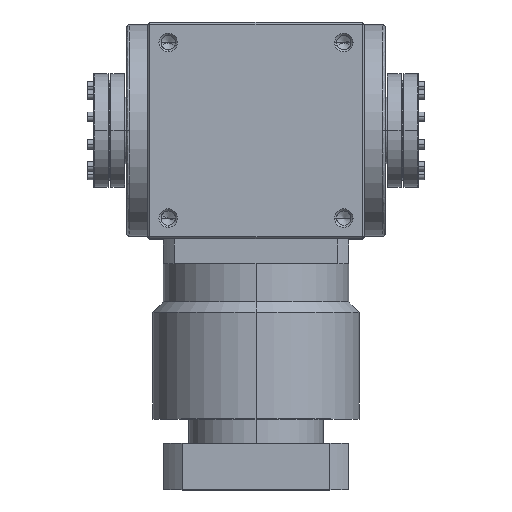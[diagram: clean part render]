
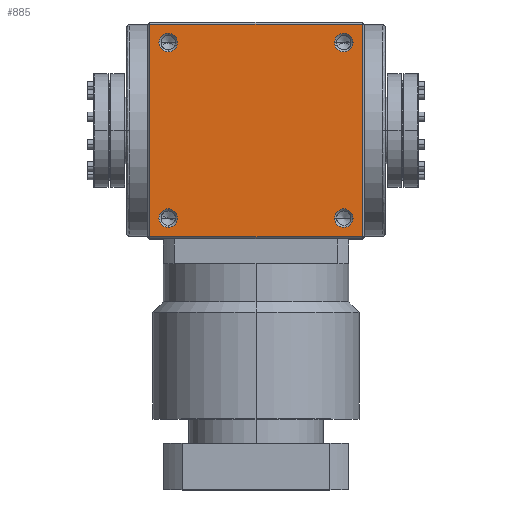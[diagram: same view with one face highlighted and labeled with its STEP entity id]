
A CAD part, top view. The second image highlights one B-rep face of the part: STEP entity #885.
In plain terms, the highlighted planar face has unit normal (0, 0, 1).
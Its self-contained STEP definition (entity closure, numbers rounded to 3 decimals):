
#181 = PLANE ( 'NONE',  #23608 ) ;
#369 = AXIS2_PLACEMENT_3D ( 'NONE', #9421, #26091, #20117 ) ;
#483 = CARTESIAN_POINT ( 'NONE',  ( 103., -103., 105. ) ) ;
#533 = DIRECTION ( 'NONE',  ( 0., 0., -1. ) ) ;
#541 = DIRECTION ( 'NONE',  ( -1., 0., 0. ) ) ;
#734 = FACE_BOUND ( 'NONE', #3857, .T. ) ;
#885 = ADVANCED_FACE ( 'NONE', ( #1002, #4411, #734, #22406, #24610 ), #181, .F. ) ;
#1002 = FACE_OUTER_BOUND ( 'NONE', #21010, .T. ) ;
#1026 = ORIENTED_EDGE ( 'NONE', *, *, #7818, .T. ) ;
#1740 = ORIENTED_EDGE ( 'NONE', *, *, #7661, .T. ) ;
#1970 = CIRCLE ( 'NONE', #7244, 9. ) ;
#2245 = CIRCLE ( 'NONE', #31123, 9. ) ;
#2421 = VERTEX_POINT ( 'NONE', #31727 ) ;
#2753 = DIRECTION ( 'NONE',  ( 0., -1., 0. ) ) ;
#2790 = DIRECTION ( 'NONE',  ( 0., 0., 1. ) ) ;
#2833 = CARTESIAN_POINT ( 'NONE',  ( -85., 85., 105. ) ) ;
#3530 = EDGE_LOOP ( 'NONE', ( #21941, #28049 ) ) ;
#3690 = CARTESIAN_POINT ( 'NONE',  ( 94., 85., 105. ) ) ;
#3857 = EDGE_LOOP ( 'NONE', ( #31714, #37130 ) ) ;
#4411 = FACE_BOUND ( 'NONE', #23992, .T. ) ;
#5349 = EDGE_CURVE ( 'NONE', #30025, #2421, #6178, .T. ) ;
#5476 = EDGE_CURVE ( 'NONE', #14740, #33255, #8252, .T. ) ;
#5529 = EDGE_CURVE ( 'NONE', #36520, #34352, #35201, .T. ) ;
#5837 = CARTESIAN_POINT ( 'NONE',  ( -85., 94., 105. ) ) ;
#6178 = CIRCLE ( 'NONE', #12392, 9. ) ;
#6571 = CARTESIAN_POINT ( 'NONE',  ( -85., -76., 105. ) ) ;
#7244 = AXIS2_PLACEMENT_3D ( 'NONE', #20679, #20672, #20632 ) ;
#7661 = EDGE_CURVE ( 'NONE', #31739, #19085, #17689, .T. ) ;
#7738 = VECTOR ( 'NONE', #23970, 1000. ) ;
#7818 = EDGE_CURVE ( 'NONE', #19085, #12961, #33240, .T. ) ;
#8252 = CIRCLE ( 'NONE', #11586, 9. ) ;
#9421 = CARTESIAN_POINT ( 'NONE',  ( 85., 85., 105. ) ) ;
#10630 = LINE ( 'NONE', #27927, #18676 ) ;
#11386 = DIRECTION ( 'NONE',  ( 0., 0., 1. ) ) ;
#11389 = AXIS2_PLACEMENT_3D ( 'NONE', #28238, #11386, #28232 ) ;
#11586 = AXIS2_PLACEMENT_3D ( 'NONE', #28860, #28817, #28764 ) ;
#11733 = CIRCLE ( 'NONE', #24587, 9. ) ;
#12392 = AXIS2_PLACEMENT_3D ( 'NONE', #32564, #32534, #32436 ) ;
#12676 = CARTESIAN_POINT ( 'NONE',  ( -85., -94., 105. ) ) ;
#12961 = VERTEX_POINT ( 'NONE', #31798 ) ;
#14740 = VERTEX_POINT ( 'NONE', #12676 ) ;
#15258 = VERTEX_POINT ( 'NONE', #18767 ) ;
#15376 = EDGE_CURVE ( 'NONE', #33255, #14740, #2245, .T. ) ;
#16049 = EDGE_CURVE ( 'NONE', #34352, #36520, #11733, .T. ) ;
#17689 = LINE ( 'NONE', #35454, #31412 ) ;
#18676 = VECTOR ( 'NONE', #28055, 1000. ) ;
#18739 = EDGE_CURVE ( 'NONE', #2421, #30025, #28750, .T. ) ;
#18767 = CARTESIAN_POINT ( 'NONE',  ( 103., 103., 105. ) ) ;
#19085 = VERTEX_POINT ( 'NONE', #21461 ) ;
#20117 = DIRECTION ( 'NONE',  ( 1., 0., 0. ) ) ;
#20632 = DIRECTION ( 'NONE',  ( 0., -1., 0. ) ) ;
#20672 = DIRECTION ( 'NONE',  ( 0., 0., 1. ) ) ;
#20679 = CARTESIAN_POINT ( 'NONE',  ( -85., 85., 105. ) ) ;
#20944 = ORIENTED_EDGE ( 'NONE', *, *, #18739, .F. ) ;
#21010 = EDGE_LOOP ( 'NONE', ( #38133, #26890, #1740, #1026 ) ) ;
#21451 = DIRECTION ( 'NONE',  ( 0., 0., 1. ) ) ;
#21459 = CARTESIAN_POINT ( 'NONE',  ( -85., -85., 105. ) ) ;
#21461 = CARTESIAN_POINT ( 'NONE',  ( -103., -103., 105. ) ) ;
#21537 = EDGE_CURVE ( 'NONE', #12961, #15258, #10630, .T. ) ;
#21576 = DIRECTION ( 'NONE',  ( 0., -1., 0. ) ) ;
#21763 = EDGE_CURVE ( 'NONE', #15258, #31739, #31936, .T. ) ;
#21835 = EDGE_CURVE ( 'NONE', #34871, #25750, #1970, .T. ) ;
#21941 = ORIENTED_EDGE ( 'NONE', *, *, #22508, .F. ) ;
#22406 = FACE_BOUND ( 'NONE', #38511, .T. ) ;
#22508 = EDGE_CURVE ( 'NONE', #25750, #34871, #23809, .T. ) ;
#22912 = VECTOR ( 'NONE', #31588, 1000. ) ;
#22977 = CARTESIAN_POINT ( 'NONE',  ( 103., 103., 105. ) ) ;
#23608 = AXIS2_PLACEMENT_3D ( 'NONE', #483, #533, #541 ) ;
#23809 = CIRCLE ( 'NONE', #27164, 9. ) ;
#23970 = DIRECTION ( 'NONE',  ( -1., 0., 0. ) ) ;
#23992 = EDGE_LOOP ( 'NONE', ( #36697, #29755 ) ) ;
#24587 = AXIS2_PLACEMENT_3D ( 'NONE', #31408, #31279, #31270 ) ;
#24610 = FACE_BOUND ( 'NONE', #3530, .T. ) ;
#25750 = VERTEX_POINT ( 'NONE', #34151 ) ;
#26091 = DIRECTION ( 'NONE',  ( 0., 0., 1. ) ) ;
#26890 = ORIENTED_EDGE ( 'NONE', *, *, #21763, .T. ) ;
#27164 = AXIS2_PLACEMENT_3D ( 'NONE', #2833, #2790, #2753 ) ;
#27524 = CARTESIAN_POINT ( 'NONE',  ( -103., 103., 105. ) ) ;
#27927 = CARTESIAN_POINT ( 'NONE',  ( 103., -103., 105. ) ) ;
#28049 = ORIENTED_EDGE ( 'NONE', *, *, #21835, .F. ) ;
#28055 = DIRECTION ( 'NONE',  ( 0., 1., 0. ) ) ;
#28232 = DIRECTION ( 'NONE',  ( 1., 0., 0. ) ) ;
#28238 = CARTESIAN_POINT ( 'NONE',  ( 85., -85., 105. ) ) ;
#28750 = CIRCLE ( 'NONE', #369, 9. ) ;
#28764 = DIRECTION ( 'NONE',  ( 0., -1., 0. ) ) ;
#28817 = DIRECTION ( 'NONE',  ( 0., 0., 1. ) ) ;
#28860 = CARTESIAN_POINT ( 'NONE',  ( -85., -85., 105. ) ) ;
#29194 = CARTESIAN_POINT ( 'NONE',  ( 76., -85., 105. ) ) ;
#29755 = ORIENTED_EDGE ( 'NONE', *, *, #16049, .F. ) ;
#30025 = VERTEX_POINT ( 'NONE', #3690 ) ;
#31123 = AXIS2_PLACEMENT_3D ( 'NONE', #21459, #21451, #21576 ) ;
#31270 = DIRECTION ( 'NONE',  ( 1., 0., 0. ) ) ;
#31279 = DIRECTION ( 'NONE',  ( 0., 0., 1. ) ) ;
#31408 = CARTESIAN_POINT ( 'NONE',  ( 85., -85., 105. ) ) ;
#31412 = VECTOR ( 'NONE', #35945, 1000. ) ;
#31588 = DIRECTION ( 'NONE',  ( 1., 0., 0. ) ) ;
#31683 = CARTESIAN_POINT ( 'NONE',  ( -103., -103., 105. ) ) ;
#31714 = ORIENTED_EDGE ( 'NONE', *, *, #5476, .F. ) ;
#31727 = CARTESIAN_POINT ( 'NONE',  ( 76., 85., 105. ) ) ;
#31739 = VERTEX_POINT ( 'NONE', #27524 ) ;
#31798 = CARTESIAN_POINT ( 'NONE',  ( 103., -103., 105. ) ) ;
#31936 = LINE ( 'NONE', #22977, #7738 ) ;
#32436 = DIRECTION ( 'NONE',  ( 1., 0., 0. ) ) ;
#32534 = DIRECTION ( 'NONE',  ( 0., 0., 1. ) ) ;
#32564 = CARTESIAN_POINT ( 'NONE',  ( 85., 85., 105. ) ) ;
#33240 = LINE ( 'NONE', #31683, #22912 ) ;
#33255 = VERTEX_POINT ( 'NONE', #6571 ) ;
#34151 = CARTESIAN_POINT ( 'NONE',  ( -85., 76., 105. ) ) ;
#34352 = VERTEX_POINT ( 'NONE', #29194 ) ;
#34365 = CARTESIAN_POINT ( 'NONE',  ( 94., -85., 105. ) ) ;
#34871 = VERTEX_POINT ( 'NONE', #5837 ) ;
#35201 = CIRCLE ( 'NONE', #11389, 9. ) ;
#35454 = CARTESIAN_POINT ( 'NONE',  ( -103., 103., 105. ) ) ;
#35945 = DIRECTION ( 'NONE',  ( 0., -1., 0. ) ) ;
#36520 = VERTEX_POINT ( 'NONE', #34365 ) ;
#36697 = ORIENTED_EDGE ( 'NONE', *, *, #5529, .F. ) ;
#37130 = ORIENTED_EDGE ( 'NONE', *, *, #15376, .F. ) ;
#37402 = ORIENTED_EDGE ( 'NONE', *, *, #5349, .F. ) ;
#38133 = ORIENTED_EDGE ( 'NONE', *, *, #21537, .T. ) ;
#38511 = EDGE_LOOP ( 'NONE', ( #37402, #20944 ) ) ;
